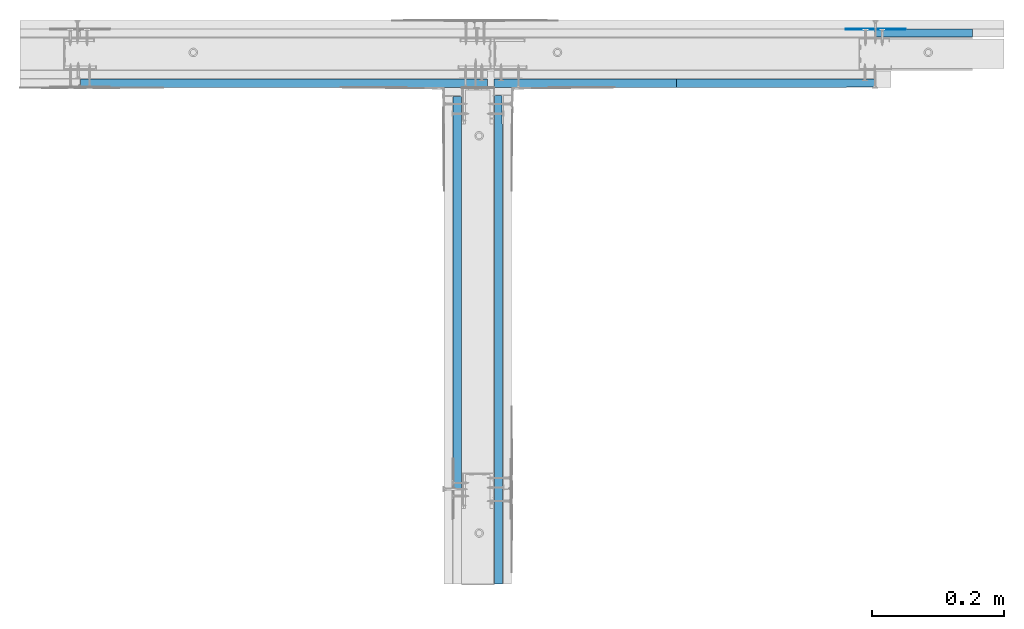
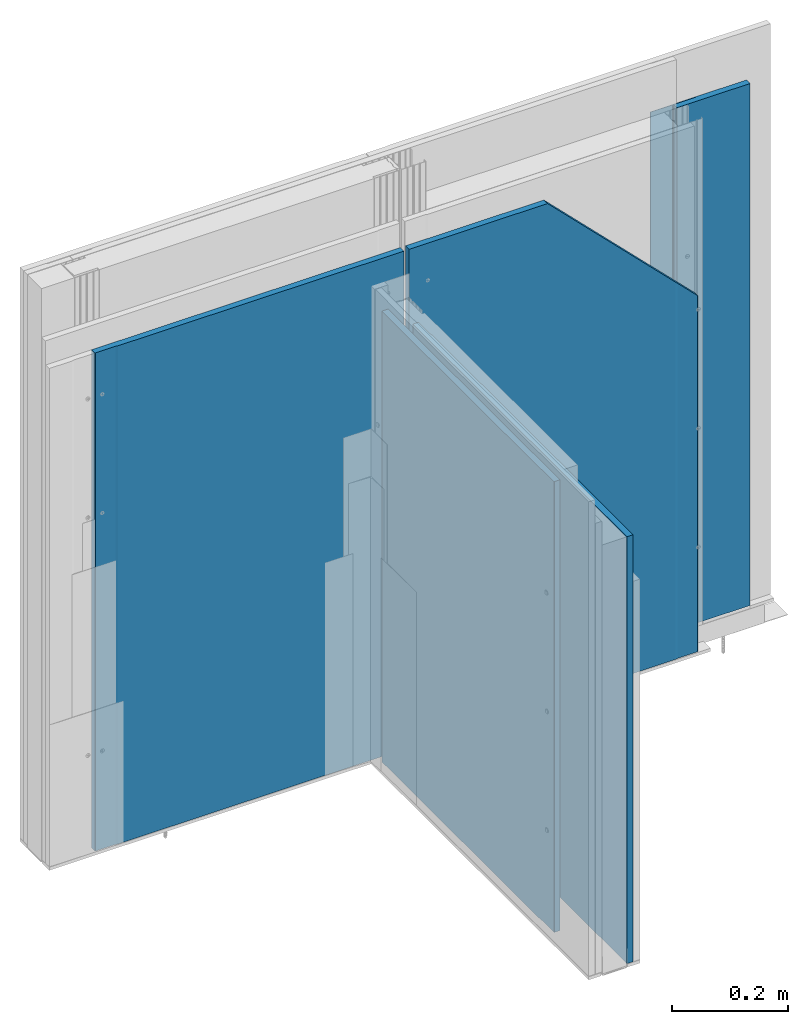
# One storey, part 5 of 95: 5 walls.
"""IFC2X3 building model written with IfcOpenShell, lengths in millimetres."""

from ifc_helpers import new_model, entity, si_unit, converted_unit, direction, frame, origin, origin_with_axes, place, context, project, spatial, faceted_brep, element, save


model = new_model("IFC2X3")

# Units and contexts
model_context = context("Model", 3, precision=1e-05, world=origin(), true_north=direction((0.0, 1.0, 0.0)))
ifc_project = project(units=[si_unit("LENGTHUNIT", "METRE", prefix="MILLI"), si_unit("AREAUNIT", "SQUARE_METRE"), si_unit("VOLUMEUNIT", "CUBIC_METRE"), converted_unit("PLANEANGLEUNIT", "DEGREE", entity("IfcPlaneAngleMeasure", 0.01745), si_unit("PLANEANGLEUNIT", "RADIAN"), dimensions=[0, 0, 0, 0, 0, 0, 0]), si_unit("SOLIDANGLEUNIT", "STERADIAN"), si_unit("MASSUNIT", "GRAM"), si_unit("TIMEUNIT", "SECOND"), si_unit("THERMODYNAMICTEMPERATUREUNIT", "DEGREE_CELSIUS"), si_unit("LUMINOUSINTENSITYUNIT", "LUMEN")], contexts=[model_context])

# Site, building, storey
site_placement = place(None, origin_with_axes())
site = spatial("IfcSite", under=ifc_project, at=site_placement, Name="Default Site", CompositionType="ELEMENT")
building_placement = place(site_placement, origin_with_axes())
building = spatial("IfcBuilding", under=site, at=building_placement, Name="Default Building", CompositionType="ELEMENT")
storey_placement = place(building_placement, origin_with_axes())
storey = spatial("IfcBuildingStorey", under=building, at=storey_placement, Name="Default Building Storey", CompositionType="ELEMENT", Elevation=0.0)

# Walls
wall_1_placement = place(storey_placement, frame((3417.959112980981, 2098.101767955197, 1403.656223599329), z_axis=(0.0, 0.0, 1.0), x_axis=(1.0, 0.0, 0.0)))
element("IfcWall", 1, at=wall_1_placement, inside=storey, Name="Płyta gipsowo-kartonowa RIGIPS PRO (4PRO™)", context=model_context, shape_type="Brep", body=[
    faceted_brep([(145.5036890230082, 12.49999999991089, -295.4072263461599), (145.503689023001, -9.059988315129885e-11, -295.4072263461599), (145.5036890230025, -9.059988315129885e-11, -1393.657805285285), (145.5036890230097, 12.49999999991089, -1393.657805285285), (0.0, 3.609557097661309e-13, -295.4072263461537), (44.99999999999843, 12.50000000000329, -295.4072263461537), (40.99999999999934, 11.5000000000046, -295.4072263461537), (0.9999999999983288, 11.50000000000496, -295.4072263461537), (0.7411809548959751, 11.46592582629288, -295.4072263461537), (0.4999999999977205, 11.36602540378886, -295.4072263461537), (0.2928932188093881, 11.20710678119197, -295.4072263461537), (0.1339745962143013, 11.00000000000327, -295.4072263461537), (0.03407417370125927, 10.75881904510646, -295.4072263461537), (-2.887645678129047e-12, 10.50000000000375, -295.4072263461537), (44.99999999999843, 12.50000000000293, -1393.657805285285), (40.99999999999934, 11.50000000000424, -1393.657805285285), (0.9999999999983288, 11.5000000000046, -1393.657805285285), (0.7411809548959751, 11.46592582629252, -1393.657805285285), (0.4999999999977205, 11.3660254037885, -1393.657805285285), (0.2928932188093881, 11.20710678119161, -1393.657805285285), (0.1339745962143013, 11.00000000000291, -1393.657805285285), (0.03407417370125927, 10.7588190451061, -1393.657805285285), (-2.887645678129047e-12, 10.50000000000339, -1393.657805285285), (0.0, 0.0, -1393.657805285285)], [[[0, 1, 2, 3]], [[4, 1, 0, 5, 6, 7, 8, 9, 10, 11, 12, 13]], [[0, 3, 14, 5]], [[6, 5, 14, 15]], [[7, 6, 15, 16]], [[8, 7, 16, 17]], [[9, 8, 17, 18]], [[10, 9, 18, 19]], [[11, 10, 19, 20]], [[12, 11, 20, 21]], [[13, 12, 21, 22]], [[4, 13, 22, 23]], [[23, 2, 1, 4]], [[14, 3, 2, 23, 22, 21, 20, 19, 18, 17, 16, 15]]]),
])
wall_2_placement = place(storey_placement, frame((4154.418329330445, -1279.954953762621, 457.7387577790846), z_axis=(0.0, 0.0, 1.0), x_axis=(1.0, 0.0, 0.0)))
element("IfcWall", 2, at=wall_2_placement, inside=storey, Name="Dedykowana masa szpachlowa Rigips - konstrukcyjna", context=model_context, shape_type="Brep", body=[
    faceted_brep([(-737.48383966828, 3387.669590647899, 650.5102394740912), (-737.4592163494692, 3387.356721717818, 650.5102394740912), (-737.4345930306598, 3387.669590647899, 650.5102394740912), (-737.3613293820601, 3387.974755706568, 650.5102394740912), (-737.2412293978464, 3388.264702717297, 650.5102394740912), (-737.0772503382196, 3388.532292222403, 650.5102394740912), (-736.8734299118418, 3388.770935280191, 650.5102394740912), (-736.6347868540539, 3388.974755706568, 650.5102394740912), (-736.3671973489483, 3389.138734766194, 650.5102394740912), (-736.0772503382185, 3389.258834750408, 650.5102394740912), (-735.7720852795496, 3389.332098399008, 650.5102394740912), (-735.4592163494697, 3389.356721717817, 650.5102394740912), (-692.4592163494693, 3389.356721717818, 650.5102394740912), (-691.4592163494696, 3390.556721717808, 650.5102394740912), (-782.4592163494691, 3390.556721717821, 650.5102394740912), (-782.4592163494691, 3389.356721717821, 650.5102394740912), (-739.4592163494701, 3389.356721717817, 650.5102394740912), (-739.1463474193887, 3389.332098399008, 650.5102394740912), (-738.8411823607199, 3389.258834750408, 650.5102394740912), (-738.5512353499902, 3389.138734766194, 650.5102394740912), (-738.2836458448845, 3388.974755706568, 650.5102394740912), (-738.0450027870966, 3388.770935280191, 650.5102394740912), (-737.8411823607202, 3388.532292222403, 650.5102394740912), (-737.6772033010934, 3388.264702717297, 650.5102394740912), (-737.5571033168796, 3387.974755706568, 650.5102394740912), (-691.4592163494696, 3390.556721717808, -445.9886932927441), (-692.4592163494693, 3389.356721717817, -445.9886932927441), (-735.4592163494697, 3389.356721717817, -445.9886932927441), (-735.7720852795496, 3389.332098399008, -445.9886932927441), (-736.0772503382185, 3389.258834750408, -445.9886932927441), (-736.3671973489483, 3389.138734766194, -445.9886932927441), (-736.6347868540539, 3388.974755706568, -445.9886932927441), (-736.8734299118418, 3388.77093528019, -445.9886932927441), (-737.0772503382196, 3388.532292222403, -445.9886932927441), (-737.2412293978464, 3388.264702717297, -445.9886932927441), (-737.3613293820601, 3387.974755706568, -445.9886932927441), (-737.4345930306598, 3387.669590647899, -445.9886932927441), (-737.4592163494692, 3387.356721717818, -445.9886932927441), (-737.48383966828, 3387.669590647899, -445.9886932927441), (-737.5571033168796, 3387.974755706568, -445.9886932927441), (-737.6772033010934, 3388.264702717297, -445.9886932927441), (-737.8411823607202, 3388.532292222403, -445.9886932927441), (-738.0450027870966, 3388.77093528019, -445.9886932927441), (-738.2836458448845, 3388.974755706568, -445.9886932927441), (-738.5512353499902, 3389.138734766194, -445.9886932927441), (-738.8411823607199, 3389.258834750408, -445.9886932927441), (-739.1463474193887, 3389.332098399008, -445.9886932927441), (-739.4592163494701, 3389.356721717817, -445.9886932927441), (-782.4592163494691, 3389.356721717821, -445.9886932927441), (-782.4592163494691, 3390.556721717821, -445.9886932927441)], [[[0, 1, 2, 3, 4, 5, 6, 7, 8, 9, 10, 11, 12, 13, 14, 15, 16, 17, 18, 19, 20, 21, 22, 23, 24]], [[25, 26, 27, 28, 29, 30, 31, 32, 33, 34, 35, 36, 37, 38, 39, 40, 41, 42, 43, 44, 45, 46, 47, 48, 49]], [[26, 12, 11, 27]], [[10, 9, 29, 28]], [[28, 27, 11, 10]], [[8, 30, 29, 9]], [[7, 6, 32, 31]], [[31, 30, 8, 7]], [[5, 4, 34, 33]], [[33, 32, 6, 5]], [[3, 35, 34, 4]], [[2, 1, 37, 36]], [[36, 35, 3, 2]], [[0, 24, 39, 38]], [[38, 37, 1, 0]], [[23, 40, 39, 24]], [[22, 21, 42, 41]], [[41, 40, 23, 22]], [[20, 19, 44, 43]], [[43, 42, 21, 20]], [[18, 45, 44, 19]], [[17, 16, 47, 46]], [[46, 45, 18, 17]], [[47, 16, 15, 48]], [[48, 15, 14, 49]], [[49, 14, 13, 25]], [[25, 13, 12, 26]]]),
])
wall_3_placement = place(storey_placement, frame((2791.474108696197, 2616.193281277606, 1159.999999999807), z_axis=(0.0, 0.0, 1.0), x_axis=(6.387668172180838e-13, -1.0, 0.0)))
element("IfcWall", 3, at=wall_3_placement, inside=storey, Name="Płyta gipsowo-kartonowa RIGIPS PRO (4PRO™)", context=model_context, shape_type="Brep", body=[
    faceted_brep([(607.4232783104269, 2.263192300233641e-10, -201.751002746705), (607.4232783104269, -12.50000000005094, -201.7510027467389), (607.4232783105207, -12.49999999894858, -1150.001581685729), (607.4232783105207, 1.328677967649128e-09, -1150.001581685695), (1155.000000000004, -12.50000000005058, -201.7510027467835), (1200.000000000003, -5.703100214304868e-11, -201.7510027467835), (1200.000000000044, -10.50000000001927, -201.7510027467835), (1199.96592582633, -10.75881904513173, -201.7510027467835), (1199.866025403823, -11.00000000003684, -201.7510027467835), (1199.707106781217, -11.20710678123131, -201.7510027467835), (1199.500000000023, -11.3660254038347, -201.7510027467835), (1199.258819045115, -11.46592582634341, -201.7510027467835), (1199.000000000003, -11.50000000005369, -201.7510027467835), (1159.000000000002, -11.50000000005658, -201.7510027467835), (1199.965925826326, -10.75881904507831, -1150.001581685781), (1199.866025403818, -10.99999999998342, -1150.001581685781), (1199.707106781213, -11.20710678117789, -1150.001581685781), (1199.50000000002, -11.36602540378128, -1150.001581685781), (1199.258819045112, -11.46592582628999, -1150.001581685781), (1198.999999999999, -11.50000000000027, -1150.001581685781), (1158.999999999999, -11.50000000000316, -1150.001581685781), (1155.000000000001, -12.49999999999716, -1150.001581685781), (1200.0, -3.609557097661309e-12, -1150.001581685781), (1200.000000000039, -10.49999999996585, -1150.001581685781)], [[[0, 1, 2, 3]], [[4, 1, 0, 5, 6, 7, 8, 9, 10, 11, 12, 13]], [[8, 7, 14, 15]], [[9, 8, 15, 16]], [[10, 9, 16, 17]], [[11, 10, 17, 18]], [[12, 11, 18, 19]], [[13, 12, 19, 20]], [[4, 13, 20, 21]], [[21, 2, 1, 4]], [[0, 3, 22, 5]], [[6, 5, 22, 23]], [[7, 6, 23, 14]], [[14, 23, 22, 3, 2, 21, 20, 19, 18, 17, 16, 15]]]),
])
wall_4_placement = place(storey_placement, frame((2841.474108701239, 809.7700029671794, 1159.999999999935), z_axis=(0.0, 0.0, 1.0), x_axis=(6.387668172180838e-13, 1.0, 0.0)))
element("IfcWall", 4, at=wall_4_placement, inside=storey, Name="Płyta gipsowo-kartonowa RIGIPS PRO (4PRO™)", context=model_context, shape_type="Brep", body=[
    faceted_brep([(462.3677895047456, 2.909303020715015e-10, -251.7510027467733), (462.3677895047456, -12.49999999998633, -251.7510027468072), (462.367789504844, -12.49999999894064, -1150.001581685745), (462.367789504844, 1.336618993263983e-09, -1150.001581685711), (1155.000000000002, -12.49999999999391, -251.751002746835), (1200.0, 3.609557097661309e-13, -251.751002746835), (1200.00000000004, -10.49999999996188, -251.751002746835), (1199.965925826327, -10.75881904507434, -251.751002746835), (1199.866025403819, -10.99999999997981, -251.751002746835), (1199.707106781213, -11.20710678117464, -251.751002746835), (1199.500000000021, -11.36602540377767, -251.751002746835), (1199.258819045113, -11.46592582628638, -251.751002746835), (1199.0, -11.49999999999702, -251.751002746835), (1159.0, -11.49999999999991, -251.751002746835), (1199.965925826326, -10.75881904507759, -1150.001581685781), (1199.866025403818, -10.99999999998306, -1150.001581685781), (1199.707106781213, -11.20710678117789, -1150.001581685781), (1199.50000000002, -11.36602540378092, -1150.001581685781), (1199.258819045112, -11.46592582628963, -1150.001581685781), (1199.0, -11.50000000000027, -1150.001581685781), (1158.999999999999, -11.50000000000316, -1150.001581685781), (1155.000000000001, -12.49999999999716, -1150.001581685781), (1200.0, -2.887645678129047e-12, -1150.001581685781), (1200.000000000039, -10.49999999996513, -1150.001581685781)], [[[0, 1, 2, 3]], [[4, 1, 0, 5, 6, 7, 8, 9, 10, 11, 12, 13]], [[8, 7, 14, 15]], [[9, 8, 15, 16]], [[10, 9, 16, 17]], [[11, 10, 17, 18]], [[12, 11, 18, 19]], [[13, 12, 19, 20]], [[4, 13, 20, 21]], [[21, 2, 1, 4]], [[0, 3, 22, 5]], [[6, 5, 22, 23]], [[7, 6, 23, 14]], [[14, 23, 22, 3, 2, 21, 20, 19, 18, 17, 16, 15]]]),
])
wall_5_placement = place(storey_placement, frame((3416.544899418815, 2034.601767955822, 1033.9739172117), z_axis=(0.0, 0.0, 1.0), x_axis=(-1.0, -6.389333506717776e-13, 0.0)))
element("IfcWall", 5, at=wall_5_placement, inside=storey, Name="Płyta gipsowo-kartonowa RIGIPS PRO (4PRO™)", context=model_context, shape_type="Brep", body=[
    faceted_brep([(0.1339745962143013, 10.9999999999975, -1023.975498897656), (0.133974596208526, 10.99999999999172, -275.5909453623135), (0.2928932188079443, 11.20710678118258, -275.4320267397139), (0.29289321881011, 11.20710678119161, -1023.975498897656), (1155.000000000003, 12.49999999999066, -1023.975498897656), (585.6098493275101, 12.49999999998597, -1023.975498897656), (585.6098493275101, 12.49999999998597, 24.27508004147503), (1155.000000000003, 12.49999999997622, 24.27508004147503), (0.7411809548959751, 11.4659258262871, -1023.975498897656), (0.7411809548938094, 11.46592582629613, -274.9837390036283), (0.9999999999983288, 11.5000000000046, -274.7249199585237), (0.9999999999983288, 11.5000000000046, -1023.975498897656), (1199.866025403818, 10.99999999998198, -1023.975498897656), (1199.866025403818, 10.9999999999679, 24.27508004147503), (1199.965925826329, 10.75881904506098, 24.27508004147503), (1199.965925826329, 10.75881904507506, -1023.975498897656), (575.6098493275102, -1.299440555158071e-11, 24.27508004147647), (575.6098493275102, -1.299440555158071e-11, -1023.975498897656), (575.6098493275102, 12.49999999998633, -1023.975498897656), (575.6098493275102, 12.49999999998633, 24.27508004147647), (2.165734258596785e-12, 10.50000000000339, -1023.975498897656), (7.219114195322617e-13, 10.50000000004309, -275.7249199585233), (0.03407417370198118, 10.75881904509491, -275.6908457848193), (0.03407417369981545, 10.7588190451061, -1023.975498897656), (585.6098493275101, 0.0, 24.27508004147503), (585.6098493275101, 0.0, -1023.975498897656), (1200.000000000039, 10.49999999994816, 24.27508004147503), (1200.000000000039, 10.49999999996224, -1023.975498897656), (1159.0, 11.50000000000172, -1023.975498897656), (1159.0, 11.49999999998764, 24.27508004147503), (1199.0, 11.49999999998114, 24.27508004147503), (1199.0, 11.49999999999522, -1023.975498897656), (44.99999999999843, 12.50000000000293, -1023.975498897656), (0.0, 0.0, -1023.975498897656), (0.4999999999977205, 11.3660254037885, -1023.975498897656), (40.99999999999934, 11.50000000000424, -1023.975498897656), (299.9999999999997, 12.49999999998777, 24.2750800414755), (299.9999999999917, -1.335536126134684e-11, 24.2750800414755), (0.4999999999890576, 11.36602540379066, -275.224919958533), (1199.258819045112, 11.46592582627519, 24.27508004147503), (1199.258819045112, 11.46592582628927, -1023.975498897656), (0.0, -6.858158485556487e-12, -275.7249199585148), (1199.500000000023, 11.36602540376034, 24.27508004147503), (1199.500000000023, 11.36602540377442, -1023.975498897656), (1200.000000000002, -1.40772726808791e-11, 24.27508004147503), (1199.707106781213, 11.20710678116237, 24.27508004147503), (40.99999999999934, 11.5000000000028, -234.7249199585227), (44.99999999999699, 12.49999999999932, -230.7249199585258), (1200.000000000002, 0.0, -1023.975498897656), (1199.707106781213, 11.20710678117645, -1023.975498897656)], [[[0, 1, 2, 3]], [[4, 5, 6, 7]], [[8, 9, 10, 11]], [[12, 13, 14, 15]], [[16, 17, 18, 19]], [[20, 21, 22, 23]], [[24, 6, 5, 25]], [[15, 14, 26, 27]], [[28, 29, 30, 31]], [[32, 18, 17, 33, 20, 23, 0, 3, 34, 8, 11, 35]], [[19, 36, 37, 16]], [[34, 38, 9, 8]], [[31, 30, 39, 40]], [[16, 37, 41, 33, 17]], [[40, 39, 42, 43]], [[7, 6, 24, 44, 26, 14, 13, 45, 42, 39, 30, 29]], [[11, 10, 46, 35]], [[3, 2, 38, 34]], [[32, 47, 36, 19, 18]], [[27, 26, 44, 48]], [[33, 41, 21, 20]], [[43, 42, 45, 49]], [[21, 41, 37, 36, 47, 46, 10, 9, 38, 2, 1, 22]], [[35, 46, 47, 32]], [[4, 7, 29, 28]], [[48, 25, 5, 4, 28, 31, 40, 43, 49, 12, 15, 27]], [[49, 45, 13, 12]], [[23, 22, 1, 0]], [[24, 25, 48, 44]]]),
])

save(model, "model.ifc")
